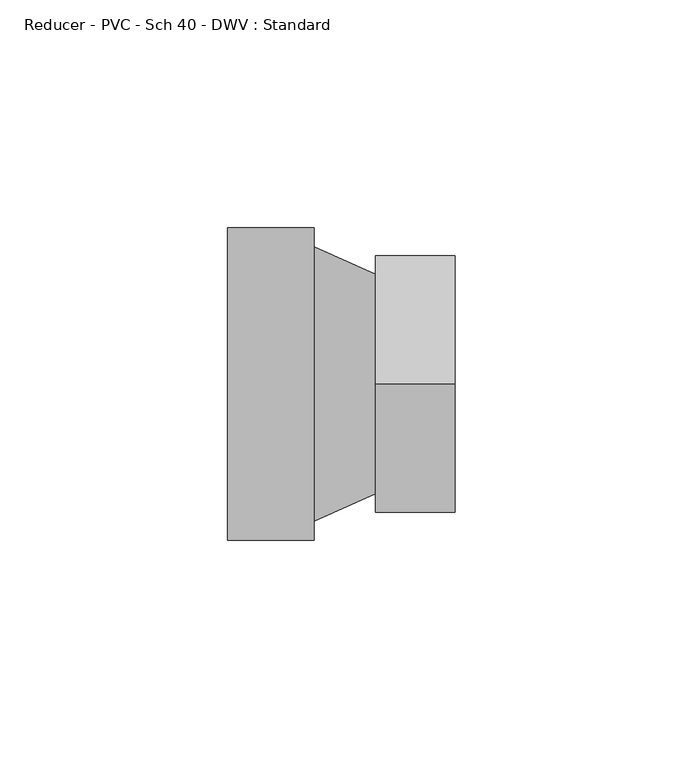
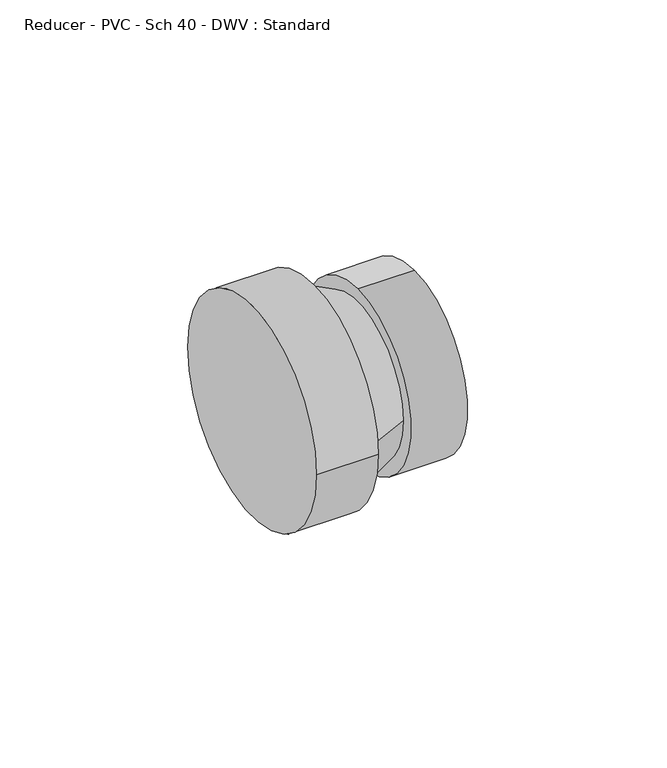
"""IFC4 building model written with IfcOpenShell, lengths in millimetres: pipe fitting geometry, Reducer - PVC - Sch 40 - DWV : Standard."""

from ifc_helpers import new_model, si_unit, frame, origin, place, context, project, spatial, polyline, circle_curve, source, transform, mapped, element, save
from ifc_brep_helpers import plane_surface, cylinder_surface, revolved_surface, advanced_brep


def reducer_pvc_sch_40_dwv_standard_b23fa098(model_context):
    return source(origin(), model_context, "Body", "AdvancedBrep", [
        advanced_brep(
        [(0.0, -34.3154, 0.0), (0.0, 34.3154, 0.0), (19.05, -34.3154, 0.0), (19.05, 34.3154, 0.0), (19.05, 30.1625, 0.0), (19.05, -30.1625, 0.0), (32.5374, 24.13, 0.0), (32.5374, -24.13, 0.0), (32.5374, 0.0, 28.2829), (32.5374, 0.0, -28.2829), (49.9872, 0.0, 28.2829), (49.9872, 0.0, -28.2829)],
        [
            (0, 1, circle_curve(frame((0.0, 0.0, 0.0), z_axis=(-1.0, 0.0, 0.0), x_axis=(0.0, 1.0, 0.0)), 34.3154)),
            (1, 0, circle_curve(frame((0.0, 0.0, 0.0), z_axis=(-1.0, 0.0, 0.0), x_axis=(0.0, 1.0, 0.0)), 34.3154)),
            (2, 3, circle_curve(frame((19.05, 0.0, 0.0), z_axis=(1.0, 0.0, 0.0), x_axis=(0.0, 1.0, 0.0)), 34.3154)),
            (3, 2, circle_curve(frame((19.05, 0.0, 0.0), z_axis=(1.0, 0.0, 0.0), x_axis=(0.0, 1.0, 0.0)), 34.3154)),
            (4, 5, circle_curve(frame((19.05, 0.0, 0.0), z_axis=(-1.0, 0.0, 0.0), x_axis=(0.0, -1.0, 0.0)), 30.1625)),
            (5, 4, circle_curve(frame((19.05, 0.0, 0.0), z_axis=(-1.0, 0.0, 0.0), x_axis=(0.0, 1.0, 0.0)), 30.1625)),
            (0, 2),
            (3, 1),
            (4, 6),
            (6, 7, circle_curve(frame((32.5374, 0.0, 0.0), z_axis=(-1.0, 0.0, 0.0), x_axis=(0.0, -1.0, 0.0)), 24.13)),
            (7, 5),
            (7, 6, circle_curve(frame((32.5374, 0.0, 0.0), z_axis=(-1.0, 0.0, 0.0), x_axis=(0.0, 1.0, 0.0)), 24.13)),
            (8, 9, circle_curve(frame((32.5374, 0.0, 0.0), z_axis=(-1.0, 0.0, 0.0), x_axis=(0.0, 0.0, -1.0)), 28.2829)),
            (9, 8, circle_curve(frame((32.5374, 0.0, 0.0), z_axis=(-1.0, 0.0, 0.0), x_axis=(0.0, 0.0, -1.0)), 28.2829)),
            (10, 11, circle_curve(frame((49.9872, 0.0, 0.0), z_axis=(1.0, 0.0, 0.0), x_axis=(0.0, 0.0, -1.0)), 28.2829)),
            (11, 10, circle_curve(frame((49.9872, 0.0, 0.0), z_axis=(1.0, 0.0, 0.0), x_axis=(0.0, 0.0, -1.0)), 28.2829)),
            (8, 10),
            (11, 9),
        ],
        [
            plane_surface(frame((0.0, 0.0, 0.0), z_axis=(-1.0, 0.0, 0.0), x_axis=(0.0, 0.0, 1.0))),
            plane_surface(frame((19.05, 0.0, 0.0), z_axis=(1.0, 0.0, 0.0), x_axis=(0.0, 0.0, 1.0))),
            cylinder_surface(frame((0.0, 0.0, 0.0), z_axis=(-1.0, 0.0, 0.0), x_axis=(0.0, 1.0, 0.0)), 34.3154),
            revolved_surface(polyline([(32.5374, 24.13, 0.0), (19.049999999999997, 30.1625, 0.0)]), (86.487, 0.0, 0.0), (-1.0, 0.0, 0.0)),
            plane_surface(frame((32.5374, 0.0, 0.0), z_axis=(-1.0, 0.0, 0.0), x_axis=(0.0, 1.0, 0.0))),
            plane_surface(frame((49.9872, 0.0, 0.0), z_axis=(1.0, 0.0, 0.0), x_axis=(0.0, 1.0, 0.0))),
            cylinder_surface(frame((32.5374, 0.0, 0.0), z_axis=(-1.0, 0.0, 0.0), x_axis=(0.0, 0.0, -1.0)), 28.2829),
        ],
        [
            (0, [[1, 2]]),
            (1, [[3, 4], [5, 6]]),
            (2, [[-1, 7, -4, 8]]),
            (2, [[-2, -8, -3, -7]]),
            (3, [[9, 10, 11, -5]]),
            (3, [[-9, -6, -11, 12]]),
            (4, [[13, 14], [-10, -12]]),
            (5, [[15, 16]]),
            (6, [[-13, 17, -16, 18]]),
            (6, [[-14, -18, -15, -17]]),
        ],
    ),
    ])


if __name__ == "__main__":
    model = new_model("IFC4")
    model_context = context("Model", 3, world=origin())
    ifc_project = project(units=[si_unit("LENGTHUNIT", "METRE", prefix="MILLI")], contexts=[model_context])
    site = spatial("IfcSite", under=ifc_project)
    building = spatial("IfcBuilding", under=site)
    placement = place(None, origin())
    reducer_pvc_sch_40_dwv_standard_shape = reducer_pvc_sch_40_dwv_standard_b23fa098(model_context)
    element("IfcPipeFitting", 1, ObjectType="Reducer - PVC - Sch 40 - DWV : Standard", at=placement, inside=building, context=model_context, shape_type="MappedRepresentation", body=[
        mapped(reducer_pvc_sch_40_dwv_standard_shape, transform((0.0, 0.0, 0.0), x_axis=(1.0, 0.0, 0.0), y_axis=(0.0, 1.0, 0.0), z_axis=(0.0, 0.0, 1.0))),
    ])
    save(model, "model.ifc")
